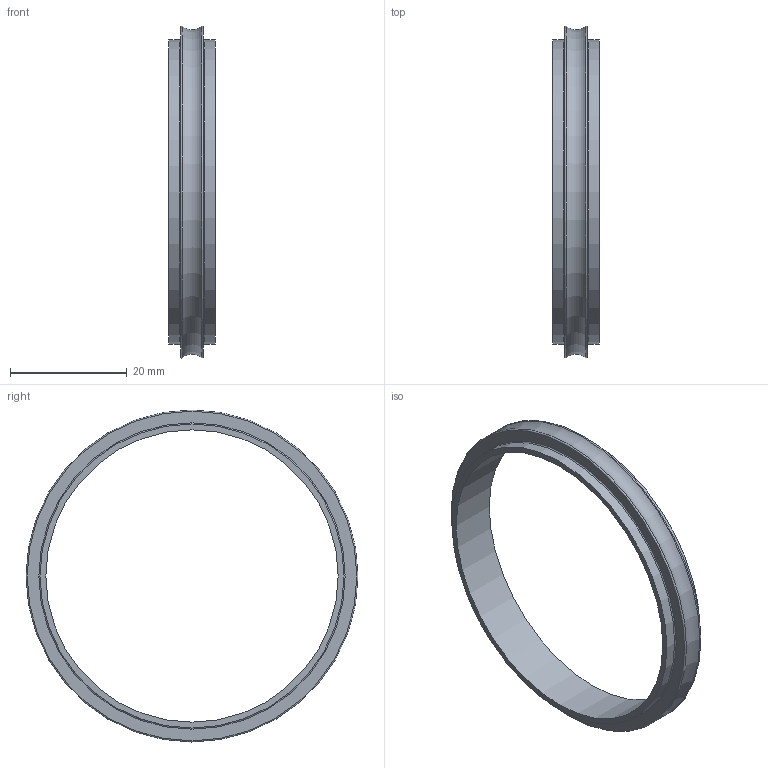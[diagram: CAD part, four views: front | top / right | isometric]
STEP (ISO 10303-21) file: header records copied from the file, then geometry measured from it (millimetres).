
FILE_DESCRIPTION((''),'2;1');
FILE_NAME('W:\3D-Modelle\M201-307.stp','2012-04-13T13:54:51',('KAA'),(''),'Autodesk Inventor 2012','Autodesk Inventor 2012','');
FILE_SCHEMA(('AUTOMOTIVE_DESIGN { 1 0 10303 214 1 1 1 1 }'));
Length unit declared in the file: millimetre
Products named in the file (1): 201-307
Bounding box: 8 x 56.79 x 56.79 mm (x, y, z)
Volume: 2615.2 mm3; surface area: 3747.2 mm2
Topology: 1 solids, 1 shells, 12 faces, 20 edges, 12 vertices
Faces by surface type: torus 5, plane 4, cylinder 3
Full cylindrical faces by diameter (mm): 50 x1, 52 x2
Entity records: 274 total; most frequent: DIRECTION 50, CARTESIAN_POINT 37, AXIS2_PLACEMENT_3D 25, ORIENTED_EDGE 24, EDGE_LOOP 24, VERTEX_POINT 12, CIRCLE 12, EDGE_CURVE 12
